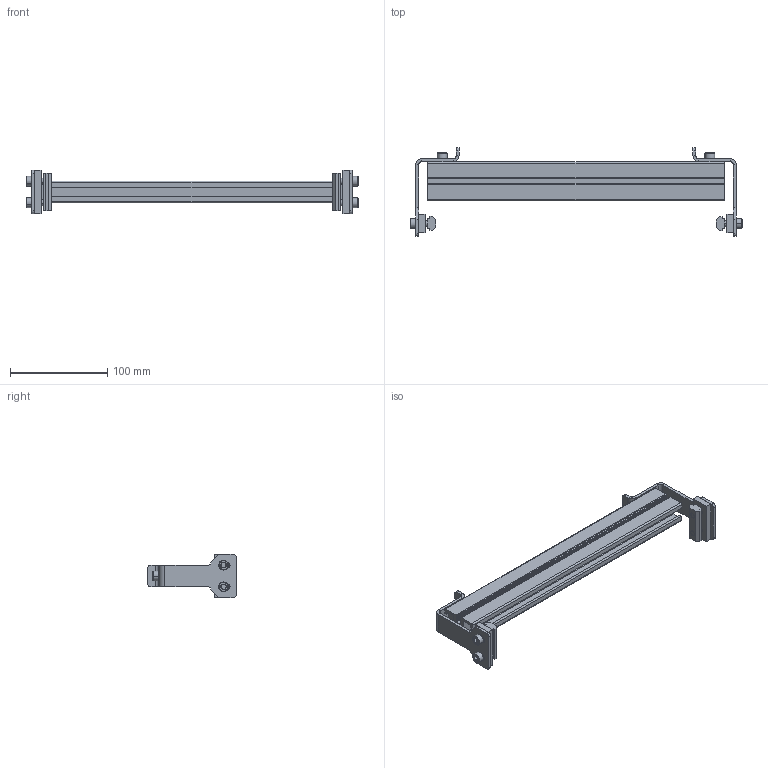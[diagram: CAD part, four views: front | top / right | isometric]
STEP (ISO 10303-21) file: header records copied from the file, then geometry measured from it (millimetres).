
FILE_DESCRIPTION (( 'STEP AP203' ), '1' );
FILE_NAME ('207137-12.STEP', '2021-01-29T02:21:30', ( '' ), ( '' ), 'SwSTEP 2.0', 'SolidWorks 2019', '' );
FILE_SCHEMA (( 'CONFIG_CONTROL_DESIGN' ));
Length unit declared in the file: inch
Products named in the file (8): 9206XXM_920614M; 9206XXM_920620M; 207135-WW_207135-12; 207137-12; 200626M; 202444; 639971M_CAE; 207134
Assembly tree (15 placements, depth 2):
  207137-12
    207134  x2
    207135-WW_207135-12
    202444  x2
    200626M  x2
    639971M_CAE  x2
    9206XXM_920614M  x2
    9206XXM_920620M  x4
Bounding box: 340.57 x 90.68 x 44.45 mm (x, y, z)
Volume: 168358 mm3; surface area: 105389.4 mm2
Topology: 15 solids, 15 shells, 432 faces, 1042 edges, 652 vertices
Faces by surface type: plane 258, cylinder 108, cone 66
Entity records: 8328 total; most frequent: CARTESIAN_POINT 1374, DIRECTION 1230, ORIENTED_EDGE 1212, EDGE_CURVE 606, LINE 462, VECTOR 462, VERTEX_POINT 388, AXIS2_PLACEMENT_3D 384
